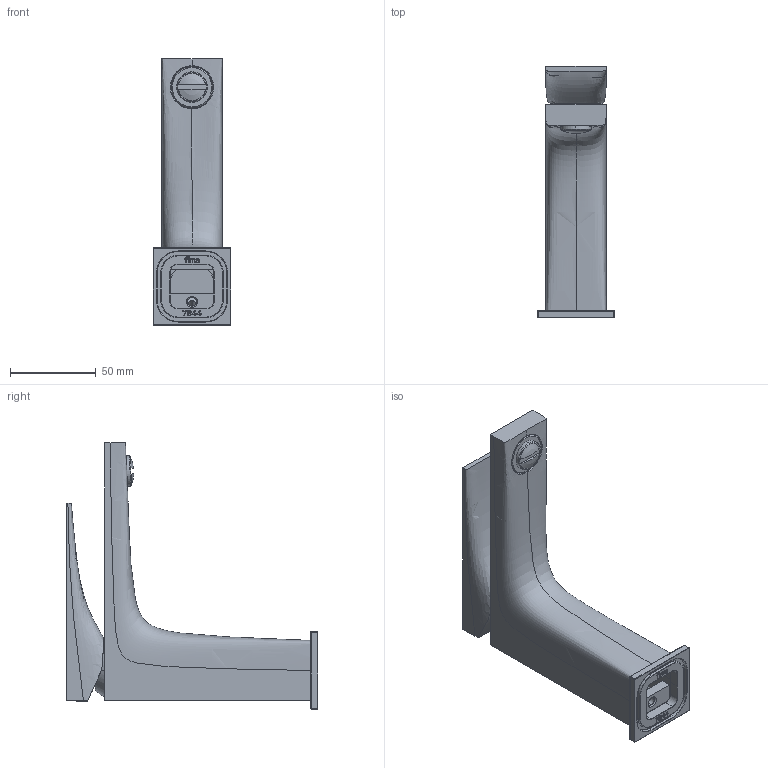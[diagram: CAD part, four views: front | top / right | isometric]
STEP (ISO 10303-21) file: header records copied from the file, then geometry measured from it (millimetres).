
FILE_DESCRIPTION((''),'2;1');
FILE_NAME('F3961_FILE_3D','2013-09-04T',('ivanv'),(''),'PRO/ENGINEER BY PARAMETRIC TECHNOLOGY CORPORATION, 2012130','PRO/ENGINEER BY PARAMETRIC TECHNOLOGY CORPORATION, 2012130','');
FILE_SCHEMA(('CONFIG_CONTROL_DESIGN'));
Products named in the file (1): F3961_FILE_3D
Bounding box: 45 x 146.5 x 155 mm (x, y, z)
Volume: 139093.8 mm3; surface area: 70689.5 mm2
Topology: 1 solids, 1 shells, 696 faces, 1832 edges, 1164 vertices
Faces by surface type: plane 335, bspline 134, cylinder 119, torus 55, sphere 20, cone 20, extrusion 13
Entity records: 44349 total; most frequent: CARTESIAN_POINT 28238, ORIENTED_EDGE 3654, DIRECTION 2829, EDGE_CURVE 1827, VERTEX_POINT 1164, VECTOR 1009, LINE 996, AXIS2_PLACEMENT_3D 910
